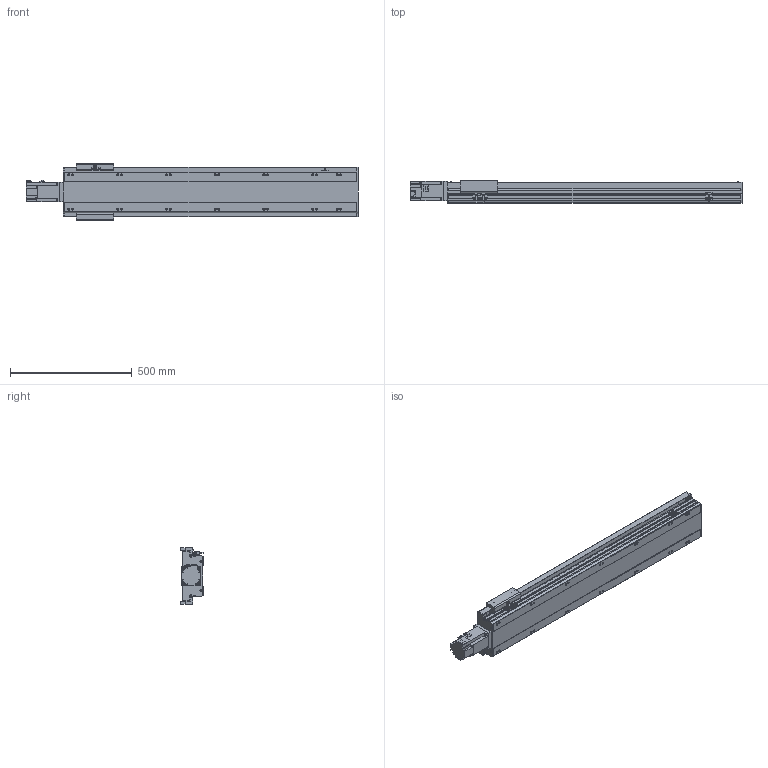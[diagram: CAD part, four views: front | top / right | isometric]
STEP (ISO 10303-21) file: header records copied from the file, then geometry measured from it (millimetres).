
FILE_DESCRIPTION(/* description */ ('STEP AP214'),/* implementation_level */ '2;1');
FILE_NAME(/* name */ 'PSM170-L10-S950-BC-T75-C1-N(0)',/* time_stamp */ '2022-06-29T08:54:23+02:00',/* author */ ('License CC BY-ND 4.0'),/* organization */ ('CADENAS'),/* preprocessor_version */ 'ST-DEVELOPER v18.102',/* originating_system */ 'PARTsolutions',/* authorisation */ ' ');
FILE_SCHEMA (('AUTOMOTIVE_DESIGN {1 0 10303 214 3 1 1}'));
Length unit declared in the file: millimetre
Products named in the file (8): PSM170-L10-S950-BC-T75-C1-N(0); PSM-Sensor; PSM140-S950-1192.5; T75-p1; PSM170_body2; PSM170_body3; PSM170-S950_body1; PSM170-L10-S950-BC-T75-C1-N(0)_dummy
Assembly tree (11 placements, depth 2):
  PSM170-L10-S950-BC-T75-C1-N(0)
    PSM-Sensor  x3
    PSM140-S950-1192.5  x3
    T75-p1
    PSM170_body2
    PSM170_body3
    PSM170-S950_body1
    PSM170-L10-S950-BC-T75-C1-N(0)_dummy
Bounding box: 1361.3 x 92 x 233 mm (x, y, z)
Volume: 8115101 mm3; surface area: 1562996.8 mm2
Topology: 10 solids, 10 shells, 1087 faces, 2907 edges, 1892 vertices
Faces by surface type: plane 668, cylinder 337, cone 68, torus 14
Full cylindrical faces by diameter (mm): 2.8 x3, 3.08 x1, 4.134 x4, 4.5 x12, 4.6 x3, 5.7 x2, 6 x9, 6.647 x22, 7 x8, 7.6 x4, 8 x8, 8.5 x14, 10 x4, 14 x14, 45 x1, 70 x1
Entity records: 28740 total; most frequent: CARTESIAN_POINT 5350, DIRECTION 4774, ORIENTED_EDGE 4588, EDGE_CURVE 2294, AXIS2_PLACEMENT_3D 1623, VERTEX_POINT 1610, LINE 1528, VECTOR 1528
